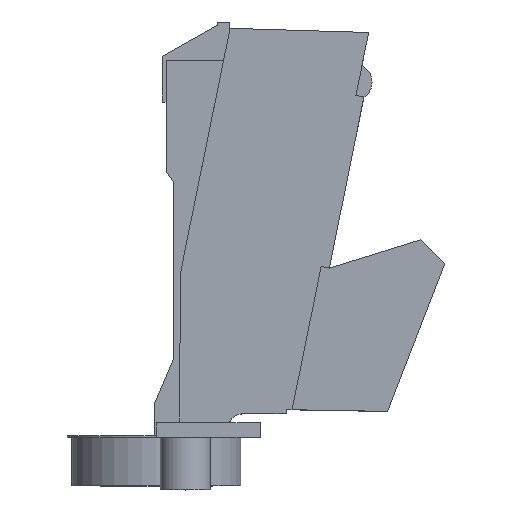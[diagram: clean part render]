
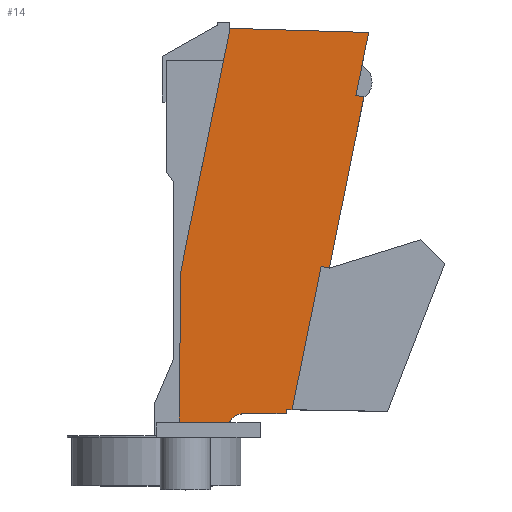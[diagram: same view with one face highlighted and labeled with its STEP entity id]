
A CAD part, top view. The second image highlights one B-rep face of the part: STEP entity #14.
In plain terms, the highlighted planar face has unit normal (0, 0, 1).
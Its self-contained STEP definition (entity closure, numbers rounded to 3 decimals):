
#3 = CARTESIAN_POINT ( 'NONE',  ( 20.368, 3., 12.1 ) ) ;
#14 = ADVANCED_FACE ( 'NONE', ( #460 ), #1247, .T. ) ;
#299 = ORIENTED_EDGE ( 'NONE', *, *, #1875, .T. ) ;
#300 = ORIENTED_EDGE ( 'NONE', *, *, #1876, .T. ) ;
#301 = ORIENTED_EDGE ( 'NONE', *, *, #1864, .T. ) ;
#302 = ORIENTED_EDGE ( 'NONE', *, *, #1821, .T. ) ;
#303 = ORIENTED_EDGE ( 'NONE', *, *, #1872, .F. ) ;
#304 = ORIENTED_EDGE ( 'NONE', *, *, #1853, .F. ) ;
#306 = ORIENTED_EDGE ( 'NONE', *, *, #1873, .T. ) ;
#307 = ORIENTED_EDGE ( 'NONE', *, *, #1868, .T. ) ;
#308 = ORIENTED_EDGE ( 'NONE', *, *, #1838, .T. ) ;
#309 = ORIENTED_EDGE ( 'NONE', *, *, #1871, .T. ) ;
#310 = ORIENTED_EDGE ( 'NONE', *, *, #1866, .T. ) ;
#311 = ORIENTED_EDGE ( 'NONE', *, *, #1869, .T. ) ;
#313 = ORIENTED_EDGE ( 'NONE', *, *, #1870, .F. ) ;
#384 = EDGE_LOOP ( 'NONE', ( #313, #311, #310, #309, #308, #307, #306, #304, #303, #302, #301, #300, #299 ) ) ;
#460 = FACE_OUTER_BOUND ( 'NONE', #384, .T. ) ;
#576 = LINE ( 'NONE', #1651, #577 ) ;
#577 = VECTOR ( 'NONE', #1652, 1000. ) ;
#593 = LINE ( 'NONE', #1678, #610 ) ;
#610 = VECTOR ( 'NONE', #1687, 1000. ) ;
#640 = LINE ( 'NONE', #1717, #641 ) ;
#641 = VECTOR ( 'NONE', #1718, 1000. ) ;
#648 = LINE ( 'NONE', #1745, #667 ) ;
#653 = LINE ( 'NONE', #1739, #663 ) ;
#658 = VECTOR ( 'NONE', #879, 1000. ) ;
#659 = LINE ( 'NONE', #1741, #660 ) ;
#660 = VECTOR ( 'NONE', #1742, 1000. ) ;
#663 = VECTOR ( 'NONE', #1746, 1000. ) ;
#664 = LINE ( 'NONE', #3, #658 ) ;
#667 = VECTOR ( 'NONE', #1751, 1000. ) ;
#670 = LINE ( 'NONE', #1747, #672 ) ;
#671 = CIRCLE ( 'NONE', #2054, 3. ) ;
#672 = VECTOR ( 'NONE', #1752, 1000. ) ;
#674 = LINE ( 'NONE', #2080, #675 ) ;
#675 = VECTOR ( 'NONE', #2085, 1000. ) ;
#676 = LINE ( 'NONE', #2088, #677 ) ;
#677 = VECTOR ( 'NONE', #2078, 1000. ) ;
#680 = LINE ( 'NONE', #2079, #681 ) ;
#681 = VECTOR ( 'NONE', #2086, 1000. ) ;
#682 = LINE ( 'NONE', #2087, #683 ) ;
#683 = VECTOR ( 'NONE', #2076, 1000. ) ;
#879 = DIRECTION ( 'NONE',  ( -1., 0., 0. ) ) ;
#1101 = DIRECTION ( 'NONE',  ( 1., 0., 0. ) ) ;
#1119 = VERTEX_POINT ( 'NONE', #1493 ) ;
#1124 = VERTEX_POINT ( 'NONE', #1498 ) ;
#1125 = VERTEX_POINT ( 'NONE', #1499 ) ;
#1143 = VERTEX_POINT ( 'NONE', #1517 ) ;
#1155 = VERTEX_POINT ( 'NONE', #1529 ) ;
#1156 = VERTEX_POINT ( 'NONE', #1530 ) ;
#1163 = VERTEX_POINT ( 'NONE', #1537 ) ;
#1164 = VERTEX_POINT ( 'NONE', #1538 ) ;
#1165 = VERTEX_POINT ( 'NONE', #1539 ) ;
#1166 = VERTEX_POINT ( 'NONE', #1540 ) ;
#1167 = VERTEX_POINT ( 'NONE', #1541 ) ;
#1168 = VERTEX_POINT ( 'NONE', #1542 ) ;
#1169 = VERTEX_POINT ( 'NONE', #1543 ) ;
#1247 = PLANE ( 'NONE',  #1985 ) ;
#1250 = CARTESIAN_POINT ( 'NONE',  ( 20.368, 1.92, 12.1 ) ) ;
#1259 = DIRECTION ( 'NONE',  ( 0., 0., 1. ) ) ;
#1260 = DIRECTION ( 'NONE',  ( 1., 0., 0. ) ) ;
#1493 = CARTESIAN_POINT ( 'NONE',  ( 46.47, 83.91, 12.1 ) ) ;
#1498 = CARTESIAN_POINT ( 'NONE',  ( 30.613, 5.763, 12.1 ) ) ;
#1499 = CARTESIAN_POINT ( 'NONE',  ( 29.38, 5.785, 12.1 ) ) ;
#1517 = CARTESIAN_POINT ( 'NONE',  ( 43.828, 70.889, 12.1 ) ) ;
#1529 = CARTESIAN_POINT ( 'NONE',  ( 45.494, 70.551, 12.1 ) ) ;
#1530 = CARTESIAN_POINT ( 'NONE',  ( 38.299, 35.092, 12.1 ) ) ;
#1537 = CARTESIAN_POINT ( 'NONE',  ( 17.569, 3., 12.1 ) ) ;
#1538 = CARTESIAN_POINT ( 'NONE',  ( 7.242, 3., 12.1 ) ) ;
#1539 = CARTESIAN_POINT ( 'NONE',  ( 20.335, 4.92, 12.1 ) ) ;
#1540 = CARTESIAN_POINT ( 'NONE',  ( 29.38, 5.02, 12.1 ) ) ;
#1541 = CARTESIAN_POINT ( 'NONE',  ( 36.633, 35.43, 12.1 ) ) ;
#1542 = CARTESIAN_POINT ( 'NONE',  ( 17.765, 84.772, 12.1 ) ) ;
#1543 = CARTESIAN_POINT ( 'NONE',  ( 7.52, 34.28, 12.1 ) ) ;
#1651 = CARTESIAN_POINT ( 'NONE',  ( 45.06, 76.962, 12.1 ) ) ;
#1652 = DIRECTION ( 'NONE',  ( 0.199, 0.98, 0. ) ) ;
#1678 = CARTESIAN_POINT ( 'NONE',  ( 29.38, 5.785, 12.1 ) ) ;
#1687 = DIRECTION ( 'NONE',  ( 1., -0.017, 0. ) ) ;
#1717 = CARTESIAN_POINT ( 'NONE',  ( 38.299, 35.092, 12.1 ) ) ;
#1718 = DIRECTION ( 'NONE',  ( -0.199, -0.98, 0. ) ) ;
#1739 = CARTESIAN_POINT ( 'NONE',  ( 20.335, 4.92, 12.1 ) ) ;
#1741 = CARTESIAN_POINT ( 'NONE',  ( 17.765, 84.772, 12.1 ) ) ;
#1742 = DIRECTION ( 'NONE',  ( -1., 0.03, 0. ) ) ;
#1745 = CARTESIAN_POINT ( 'NONE',  ( 45.06, 76.962, 12.1 ) ) ;
#1746 = DIRECTION ( 'NONE',  ( 1., 0.011, 0. ) ) ;
#1747 = CARTESIAN_POINT ( 'NONE',  ( 29.38, 5.02, 12.1 ) ) ;
#1750 = CARTESIAN_POINT ( 'NONE',  ( 20.368, 1.92, 12.1 ) ) ;
#1751 = DIRECTION ( 'NONE',  ( 0.199, 0.98, 0. ) ) ;
#1752 = DIRECTION ( 'NONE',  ( 0., 1., 0. ) ) ;
#1753 = DIRECTION ( 'NONE',  ( 0., 0., -1. ) ) ;
#1821 = EDGE_CURVE ( 'NONE', #1143, #1119, #576, .T. ) ;
#1838 = EDGE_CURVE ( 'NONE', #1125, #1124, #593, .T. ) ;
#1853 = EDGE_CURVE ( 'NONE', #1155, #1156, #640, .T. ) ;
#1864 = EDGE_CURVE ( 'NONE', #1119, #1168, #659, .T. ) ;
#1866 = EDGE_CURVE ( 'NONE', #1165, #1166, #653, .T. ) ;
#1868 = EDGE_CURVE ( 'NONE', #1124, #1167, #648, .T. ) ;
#1869 = EDGE_CURVE ( 'NONE', #1163, #1165, #671, .T. ) ;
#1870 = EDGE_CURVE ( 'NONE', #1163, #1164, #664, .T. ) ;
#1871 = EDGE_CURVE ( 'NONE', #1166, #1125, #670, .T. ) ;
#1872 = EDGE_CURVE ( 'NONE', #1143, #1155, #674, .T. ) ;
#1873 = EDGE_CURVE ( 'NONE', #1167, #1156, #676, .T. ) ;
#1875 = EDGE_CURVE ( 'NONE', #1169, #1164, #680, .T. ) ;
#1876 = EDGE_CURVE ( 'NONE', #1168, #1169, #682, .T. ) ;
#1985 = AXIS2_PLACEMENT_3D ( 'NONE', #1250, #1259, #1260 ) ;
#2054 = AXIS2_PLACEMENT_3D ( 'NONE', #1750, #1753, #1101 ) ;
#2076 = DIRECTION ( 'NONE',  ( -0.199, -0.98, 0. ) ) ;
#2078 = DIRECTION ( 'NONE',  ( 0.98, -0.199, 0. ) ) ;
#2079 = CARTESIAN_POINT ( 'NONE',  ( 7.215, 0., 12.1 ) ) ;
#2080 = CARTESIAN_POINT ( 'NONE',  ( 8.032, 78.152, 12.1 ) ) ;
#2085 = DIRECTION ( 'NONE',  ( 0.98, -0.199, 0. ) ) ;
#2086 = DIRECTION ( 'NONE',  ( -0.009, -1., 0. ) ) ;
#2087 = CARTESIAN_POINT ( 'NONE',  ( 17.765, 84.772, 12.1 ) ) ;
#2088 = CARTESIAN_POINT ( 'NONE',  ( 0.838, 42.693, 12.1 ) ) ;
